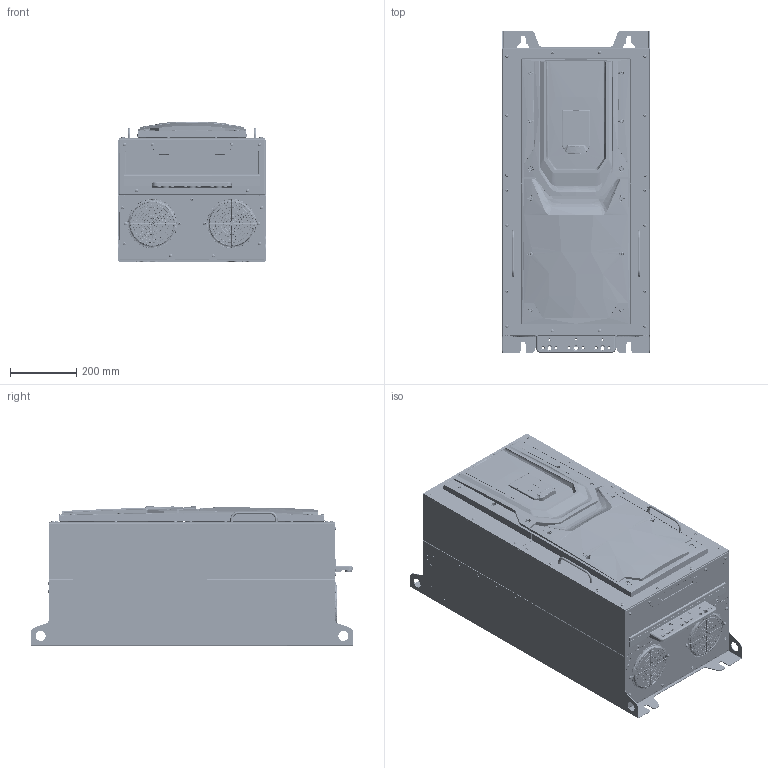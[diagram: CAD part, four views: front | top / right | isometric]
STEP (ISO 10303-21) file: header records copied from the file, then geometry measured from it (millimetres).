
FILE_DESCRIPTION (( 'STEP AP203' ), '1' );
FILE_NAME ('P2.IP55.SIZE8.TFT-Compact-Closed (ENVELOPE).STEP', '2022-03-16T11:08:08', ( '' ), ( '' ), 'SwSTEP 2.0', 'SolidWorks 2021', '' );
FILE_SCHEMA (( 'CONFIG_CONTROL_DESIGN' ));
Products named in the file (1): P2.IP55.SIZE8.TFT-Compact-Closed (ENVELOPE)
Bounding box: 444 x 974 x 422.81 mm (x, y, z)
Volume: 152535662.9 mm3; surface area: 2328257.2 mm2
Topology: 1 solids, 20 shells, 6585 faces, 17559 edges, 11138 vertices
Faces by surface type: plane 2477, cylinder 1744, bspline 958, torus 662, cone 570, sphere 174
Entity records: 308793 total; most frequent: CARTESIAN_POINT 159009, ORIENTED_EDGE 34764, DIRECTION 26603, EDGE_CURVE 17382, VERTEX_POINT 11138, AXIS2_PLACEMENT_3D 10538, EDGE_LOOP 7028, B_SPLINE_CURVE_WITH_KNOTS 6696
